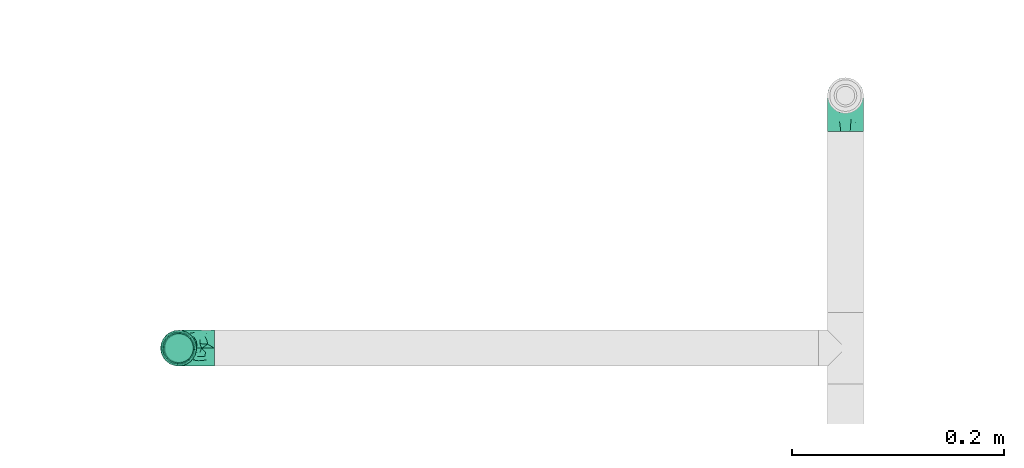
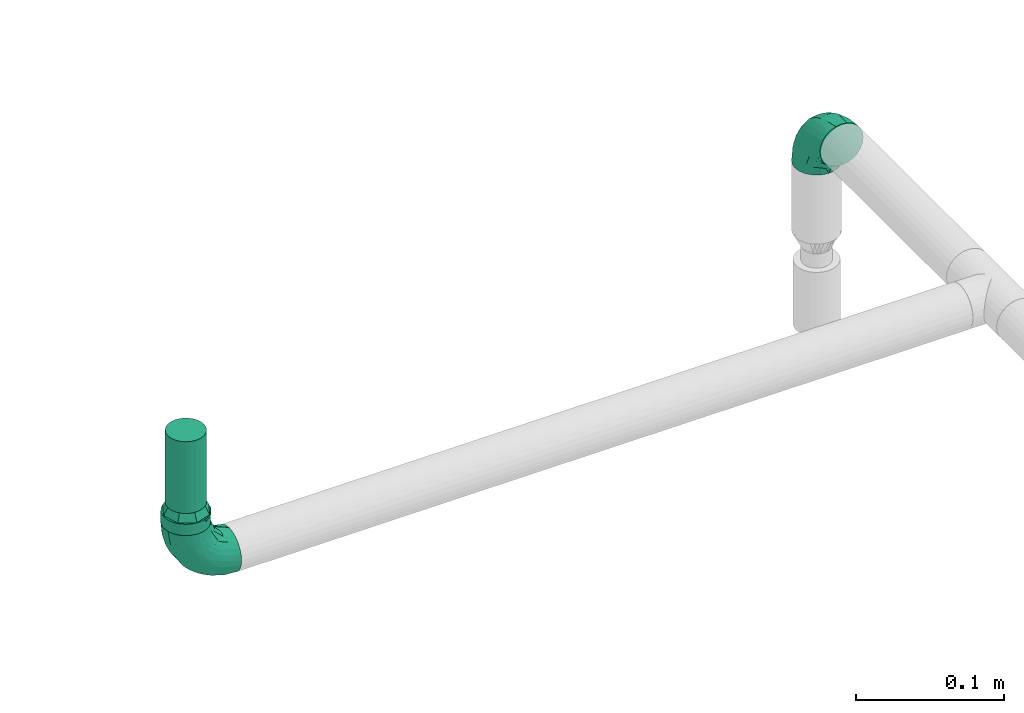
# One storey, part 35 of 43: 3 flow fittings, 1 flow segment, 1 flow terminal.
"""IFC2X3 building model written with IfcOpenShell, lengths in millimetres."""

from ifc_helpers import new_model, entity, si_unit, converted_unit, derived_unit, direction, frame, origin_with_axes, origin_2d_with_axis, place, context, subcontext, project, spatial, hollow_circle, extrude, open_shell, surface_model, source, transform, mapped, type_object, element, save


model = new_model("IFC2X3")

# Units and contexts
model_context = context("Model", 3, precision=0.01, world=frame((0.0, 4.29681676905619e-09, 0.0)), true_north=direction((4.01073788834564e-13, 1.0)))
plan_context = context("Plan", 3, precision=0.01, world=frame((0.0, 4.29681676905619e-09, 0.0)), true_north=direction((4.01073788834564e-13, 1.0)))
body_context = subcontext(model_context, "Body", "Model", "MODEL_VIEW")
ifc_project = project(units=[converted_unit("PLANEANGLEUNIT", "DEGREE", entity("IfcPositiveLengthMeasure", 0.0174532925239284), si_unit("PLANEANGLEUNIT", "RADIAN"), dimensions=[0, 0, 0, 0, 0, 0, 0]), si_unit("AREAUNIT", "SQUARE_METRE"), si_unit("LENGTHUNIT", "METRE", prefix="MILLI"), si_unit("MASSUNIT", "GRAM", prefix="KILO"), si_unit("POWERUNIT", "WATT"), si_unit("PRESSUREUNIT", "PASCAL"), si_unit("FORCEUNIT", "NEWTON", prefix="KILO"), si_unit("ELECTRICVOLTAGEUNIT", "VOLT"), si_unit("ELECTRICCURRENTUNIT", "AMPERE"), si_unit("THERMODYNAMICTEMPERATUREUNIT", "DEGREE_CELSIUS"), si_unit("TIMEUNIT", "SECOND"), si_unit("VOLUMEUNIT", "CUBIC_METRE"), derived_unit("LINEARVELOCITYUNIT", [(si_unit("LENGTHUNIT", "METRE"), 1), (si_unit("TIMEUNIT", "SECOND"), -1)]), derived_unit("VOLUMETRICFLOWRATEUNIT", [(si_unit("VOLUMEUNIT", "CUBIC_METRE"), 1), (si_unit("TIMEUNIT", "SECOND"), -1)]), derived_unit("THERMALTRANSMITTANCEUNIT", [(si_unit("POWERUNIT", "WATT"), 1), (si_unit("THERMODYNAMICTEMPERATUREUNIT", "KELVIN"), -1), (si_unit("AREAUNIT", "SQUARE_METRE"), -1)]), derived_unit("SOUNDPRESSUREUNIT", [(si_unit("PRESSUREUNIT", "PASCAL"), 1)])], contexts=[model_context, plan_context])

# Site, building, storey
site_placement = place(None, frame((0.0, -4.29681676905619e-09, 0.0), z_axis=(0.0, 0.0, 1.0), x_axis=(1.0, 0.0, 0.0)))
site = spatial("IfcSite", under=ifc_project, at=site_placement, CompositionType="ELEMENT")
building_placement = place(site_placement, frame((0.0, 4.29681676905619e-09, 0.0), z_axis=(0.0, 0.0, 1.0), x_axis=(1.0, 0.0, 0.0)))
building = spatial("IfcBuilding", under=site, at=building_placement, Name="mc-building", CompositionType="ELEMENT")
storey_placement = place(building_placement, frame((0.0, 0.0, 210900.0), z_axis=(0.0, 0.0, 1.0), x_axis=(1.0, 0.0, 0.0)))
storey = spatial("IfcBuildingStorey", under=building, at=storey_placement, Name="Nivå F", CompositionType="ELEMENT", Elevation=210900.0)

# Flow fittings
pipe_fitting_type_1 = type_object("IfcPipeFittingType", Name="magi_pipe_fe_elbow_short_001", PredefinedType="BEND")
shared_shape_1 = source(origin_with_axes(), body_context, "Body", "SurfaceModel", [
    surface_model("IfcShellBasedSurfaceModel", [(-33.8, 4.37404, -16.32415), (-33.8, 0.0, -16.9), (-33.8, 11.9501, -11.9501), (-33.8, 8.45, -14.63583), (-33.8, 16.32415, -4.37404), (-33.8, 14.63583, -8.45), (-33.8, -14.63583, -8.45), (-33.8, -16.32415, -4.37404), (-33.8, -8.45, 14.63583), (-33.8, -11.9501, -11.9501), (-33.8, -8.45, -14.63583), (-33.8, -4.37404, -16.32415), (-33.8, -16.9, 0.0), (-33.8, -16.32415, 4.37404), (-33.8, 11.9501, 11.9501), (-33.8, 14.63583, 8.45), (-33.8, 16.32415, 4.37404), (-33.8, 4.37404, 16.32415), (-33.8, 8.45, 14.63583), (-33.8, -14.63583, 8.45), (-33.8, -11.9501, 11.9501), (-33.8, -4.37404, 16.32415), (-33.8, 0.0, 16.9), (-33.8, 16.9, 0.0), (-11.9501, 33.8, -11.9501), (0.0, 33.8, -16.9), (-4.37404, 33.8, -16.32415), (-8.45, 33.8, -14.63583), (-14.63583, 33.8, -8.45), (-16.32415, 33.8, -4.37404), (14.63583, 33.8, -8.45), (8.45, 33.8, 14.63583), (16.32415, 33.8, -4.37404), (8.45, 33.8, -14.63583), (11.9501, 33.8, -11.9501), (4.37404, 33.8, -16.32415), (16.32415, 33.8, 4.37404), (16.9, 33.8, 0.0), (-11.9501, 33.8, 11.9501), (-16.32415, 33.8, 4.37404), (-14.63583, 33.8, 8.45), (-8.45, 33.8, 14.63583), (-4.37404, 33.8, 16.32415), (11.9501, 33.8, 11.9501), (14.63583, 33.8, 8.45), (0.0, 33.8, 16.9), (4.37404, 33.8, 16.32415), (-16.9, 33.8, 0.0), (-24.79389, -13.12945, 9.48721), (-22.19287, -9.75018, 12.59315), (-24.09897, -14.97035, 0.0), (-14.93934, -10.76256, 8.5297), (-22.46095, -14.75051, 5.27077), (14.75051, 22.46094, 5.27077), (11.9251, 13.23888, 4.33236), (13.04069, 14.39795, 0.0), (7.71387, 13.68847, 11.55891), (9.75018, 22.19287, 12.59315), (4.10169, 13.0571, 14.04018), (-24.84007, -6.39063, 15.2048), (-25.81779, -2.23879, 16.61097), (-23.66549, 2.59054, 16.87119), (-26.50418, 14.06512, 11.08152), (-24.21253, 17.66365, 7.72657), (-29.58514, 15.86957, 7.00283), (-6.17382, -7.5455, 0.0), (-13.23888, -11.9251, 4.33236), (-14.39795, -13.04069, 0.0), (-17.81434, 18.87373, 11.97104), (-6.30846, 29.15138, 15.82987), (-2.31622, 25.28002, 16.85849), (-29.23923, 10.23435, 13.77053), (-1.45439, -2.85688, 7.61475), (-0.28326, 0.34872, 10.09509), (-5.74484, -4.04709, 10.4122), (-4.41137, 11.31918, 16.59407), (-8.39727, 3.10034, 15.7812), (-1.72649, 9.1306, 15.53089), (-17.39909, 24.75344, 7.64977), (-26.19233, 20.0512, 0.0), (-28.14518, 17.29657, 4.25857), (-26.05147, 6.6281, 15.96447), (-5.87354, 16.61944, 16.86968), (-12.51807, 12.51807, 16.48937), (-10.06312, 7.38516, 16.81295), (-3.01882, 3.01882, 13.81718), (-13.0571, -4.10169, 14.04018), (-16.82553, -0.15166, 16.38038), (10.76256, 14.93934, 8.5297), (13.12945, 24.79389, 9.48721), (6.39063, 24.84007, 15.2048), (2.23879, 25.81779, 16.61097), (-13.68847, -7.71387, 11.55891), (14.97035, 24.09897, 0.0), (-7.30894, 22.89991, 16.09489), (-10.67958, 26.17414, 14.008), (-12.78295, 18.26924, 15.06066), (-13.88562, 22.45231, 12.93244), (-18.04944, 15.16501, 14.04434), (-23.11658, 20.08178, 4.02986), (-21.84989, 21.84989, 0.0), (-18.55817, 25.48277, 3.93065), (-13.95142, 26.94732, 11.03289), (-18.57098, 7.23906, 16.59756), (-16.58335, 4.14122, 16.89279), (-17.96666, 11.46709, 15.63151), (-9.84453, 17.54304, 16.18938), (0.15166, 16.82553, 16.38038), (-23.27207, 11.47201, 14.23154), (3.84842, 5.86994, 10.70473), (-8.0212, -7.54413, 7.93275), (1.00345, -2.19508, 4.57414), (5.13203, 3.01004, 5.90201), (5.24161, 1.7543, 2.53265), (8.70457, 7.04947, 3.99182), (-20.0512, 26.19233, 0.0), (8.4852, 8.76699, 7.09296), (-4.55488, -6.72064, 4.90681), (2.05031, -2.05031, 0.0), (7.5455, 6.17382, 0.0), (-26.75399, 2.1369, -16.845), (-14.61995, 24.73803, -11.27736), (-28.45274, -13.45335, -9.81895), (-26.00469, 6.63555, -15.96645), (-23.06726, 20.04573, -4.26202), (-13.80647, -4.26506, -14.17873), (-14.67501, -0.21081, -16.07388), (-6.7902, -0.2828, -13.8478), (-24.53586, 11.08096, -14.13417), (-26.72048, 14.00837, -11.05776), (10.0967, 24.44989, -12.75976), (5.83237, 21.40218, -15.03047), (6.66249, 28.54238, -15.38093), (-20.38182, 15.48705, -12.74596), (-15.65186, 19.64213, -13.01327), (-12.03528, 20.66498, -14.67665), (-15.61907, 15.61906, -14.83879), (-25.56551, -15.26206, 0.0), (-24.65452, -15.12934, -5.50955), (12.53268, 21.23441, -9.15363), (13.45335, 28.45274, -9.81895), (15.12934, 24.65452, -5.50955), (-7.35442, -8.31014, -5.65563), (-15.67504, -12.54494, -5.54878), (-24.44989, -10.0967, -12.75976), (0.16522, 0.41303, -9.71728), (-5.70658, -5.33066, -8.89288), (-5.13869, -2.37198, -11.53565), (-21.23441, -12.53268, -9.15363), (0.71146, 7.93863, -14.09382), (0.21081, 14.67501, -16.07388), (3.49291, 14.42772, -14.76381), (-24.89911, -2.13088, -16.591), (-28.54238, -6.66249, -15.38093), (-18.44386, -7.71663, -13.26957), (2.13088, 24.89911, -16.591), (-28.64342, 17.44413, -2.89318), (1.70017, -1.28722, -5.09504), (-16.57067, 26.81947, -7.36596), (-17.69055, 27.4263, -3.76405), (-12.89279, -9.7522, -8.66343), (-5.96611, 5.96611, -15.95814), (-20.53709, 20.09345, -8.28985), (-2.1369, 26.75399, -16.845), (-6.89872, 24.58781, -16.02578), (-10.60739, 26.53157, -13.98044), (-21.40218, -5.83237, -15.03047), (2.93192, 5.89627, -11.55917), (6.89393, 12.61842, -11.82233), (5.58056, 5.95325, -8.79455), (-3.99512, 18.61798, -16.89635), (-9.1383, 9.86148, -16.89041), (-9.99983, 16.02119, -16.39699), (-16.68576, 9.78031, -16.34199), (-27.01915, 16.61158, -7.12979), (15.26206, 25.56551, 0.0), (-18.61798, 3.99512, -16.89635), (-19.37495, 27.82495, 0.0), (9.7522, 12.89279, -8.66343), (-12.61842, -6.89393, -11.82233), (8.31014, 7.35442, -5.65563), (-18.84705, 19.14018, -10.96545), (12.54494, 15.67504, -5.54878)], [open_shell([[[0, 1, 2]], [[3, 0, 2]], [[4, 5, 2]], [[6, 2, 1]], [[2, 7, 8]], [[9, 6, 10]], [[1, 11, 10]], [[10, 6, 1]], [[2, 6, 7]], [[12, 13, 7]], [[4, 2, 14]], [[4, 15, 16]], [[4, 14, 15]], [[17, 18, 14]], [[14, 2, 8]], [[17, 14, 8]], [[19, 20, 13]], [[20, 7, 13]], [[21, 22, 8]], [[20, 8, 7]], [[8, 22, 17]], [[4, 16, 23]], [[24, 25, 26]], [[24, 26, 27]], [[24, 28, 29]], [[25, 24, 30]], [[31, 32, 24]], [[33, 30, 34]], [[33, 35, 25]], [[25, 30, 33]], [[32, 30, 24]], [[32, 36, 37]], [[38, 24, 29]], [[39, 40, 29]], [[40, 38, 29]], [[38, 41, 42]], [[38, 31, 24]], [[31, 38, 42]], [[36, 43, 44]], [[36, 32, 43]], [[31, 45, 46]], [[32, 31, 43]], [[42, 45, 31]], [[39, 29, 47]], [[20, 48, 49]], [[13, 12, 50]], [[51, 48, 52]], [[53, 54, 55]], [[48, 20, 19]], [[13, 52, 19]], [[56, 57, 58]], [[49, 8, 20]], [[49, 59, 8]], [[22, 60, 61]], [[62, 63, 64]], [[65, 66, 67]], [[57, 43, 31]], [[62, 68, 63]], [[42, 69, 70]], [[18, 71, 14]], [[21, 60, 22]], [[72, 73, 74]], [[75, 76, 77]], [[14, 62, 15]], [[40, 39, 78]], [[79, 23, 80]], [[64, 16, 15]], [[22, 61, 17]], [[17, 81, 18]], [[82, 83, 84]], [[74, 85, 86]], [[59, 86, 87]], [[88, 89, 57]], [[90, 31, 46]], [[44, 53, 36]], [[46, 45, 91]], [[54, 53, 88]], [[44, 89, 53]], [[92, 86, 49]], [[89, 44, 43]], [[8, 59, 21]], [[53, 55, 93]], [[93, 36, 53]], [[66, 52, 67]], [[94, 82, 70]], [[95, 96, 94]], [[97, 98, 96]], [[79, 99, 100]], [[41, 38, 95]], [[101, 100, 99]], [[68, 78, 63]], [[42, 41, 69]], [[23, 16, 80]], [[95, 94, 69]], [[78, 101, 99]], [[38, 102, 95]], [[70, 45, 42]], [[97, 95, 102]], [[13, 50, 52]], [[90, 57, 31]], [[57, 90, 58]], [[81, 17, 61]], [[103, 104, 84]], [[105, 81, 103]], [[38, 40, 102]], [[106, 96, 83]], [[94, 106, 82]], [[91, 70, 107]], [[71, 62, 14]], [[62, 108, 98]], [[86, 59, 49]], [[67, 52, 50]], [[60, 59, 87]], [[92, 49, 51]], [[86, 85, 76]], [[91, 90, 46]], [[37, 36, 93]], [[107, 77, 58]], [[107, 58, 90]], [[58, 85, 109]], [[110, 74, 92]], [[72, 74, 110]], [[66, 51, 52]], [[72, 111, 112]], [[113, 114, 112]], [[56, 88, 57]], [[52, 48, 19]], [[49, 48, 51]], [[57, 89, 43]], [[53, 89, 88]], [[103, 81, 61]], [[71, 81, 108]], [[16, 64, 80]], [[63, 78, 99]], [[47, 115, 101]], [[101, 115, 100]], [[40, 78, 102]], [[68, 102, 78]], [[97, 96, 95]], [[105, 98, 108]], [[103, 84, 83]], [[107, 70, 82]], [[76, 84, 87]], [[82, 84, 75]], [[70, 91, 45]], [[90, 91, 107]], [[59, 60, 21]], [[61, 60, 87]], [[73, 85, 74]], [[109, 112, 116]], [[103, 61, 104]], [[105, 103, 83]], [[96, 105, 83]], [[81, 105, 108]], [[96, 98, 105]], [[62, 98, 68]], [[61, 87, 104]], [[87, 84, 104]], [[86, 76, 87]], [[77, 76, 85]], [[58, 77, 85]], [[75, 77, 107]], [[82, 75, 107]], [[76, 75, 84]], [[81, 71, 18]], [[62, 71, 108]], [[95, 69, 41]], [[70, 69, 94]], [[62, 64, 15]], [[80, 63, 99]], [[63, 80, 64]], [[80, 99, 79]], [[66, 65, 117]], [[110, 66, 117]], [[112, 114, 116]], [[118, 117, 65]], [[110, 92, 51]], [[112, 111, 113]], [[119, 55, 54]], [[74, 86, 92]], [[58, 109, 56]], [[116, 56, 109]], [[66, 110, 51]], [[72, 110, 117]], [[111, 72, 117]], [[73, 112, 109]], [[117, 118, 111]], [[113, 111, 118]], [[118, 119, 113]], [[114, 119, 54]], [[119, 114, 113]], [[116, 54, 88]], [[54, 116, 114]], [[116, 88, 56]], [[112, 73, 72]], [[85, 73, 109]], [[78, 39, 101]], [[47, 101, 39]], [[102, 68, 97]], [[97, 68, 98]], [[82, 106, 83]], [[94, 96, 106]], [[0, 120, 1]], [[28, 24, 121]], [[9, 122, 6]], [[3, 123, 0]], [[100, 124, 79]], [[125, 126, 127]], [[128, 2, 129]], [[130, 131, 132]], [[128, 129, 133]], [[134, 135, 136]], [[128, 3, 2]], [[67, 137, 138]], [[139, 140, 141]], [[138, 7, 6]], [[142, 65, 143]], [[144, 9, 10]], [[145, 146, 147]], [[143, 138, 148]], [[149, 150, 151]], [[152, 11, 1]], [[10, 153, 144]], [[148, 144, 154]], [[153, 10, 11]], [[35, 155, 25]], [[23, 79, 156]], [[146, 157, 142]], [[158, 159, 29]], [[143, 160, 142]], [[161, 150, 149]], [[29, 28, 158]], [[121, 162, 158]], [[33, 34, 130]], [[25, 163, 26]], [[26, 163, 164]], [[140, 34, 30]], [[24, 27, 165]], [[124, 159, 162]], [[155, 35, 132]], [[153, 152, 166]], [[123, 3, 128]], [[167, 168, 169]], [[170, 155, 150]], [[26, 164, 27]], [[132, 35, 33]], [[140, 130, 34]], [[166, 152, 126]], [[133, 134, 136]], [[2, 5, 129]], [[168, 131, 130]], [[30, 32, 141]], [[170, 171, 172]], [[173, 123, 128]], [[156, 174, 4]], [[165, 27, 164]], [[172, 164, 170]], [[134, 165, 135]], [[122, 138, 6]], [[137, 12, 7]], [[32, 37, 175]], [[168, 130, 139]], [[150, 155, 131]], [[163, 155, 170]], [[151, 168, 149]], [[150, 161, 171]], [[166, 125, 154]], [[122, 144, 148]], [[120, 152, 1]], [[176, 171, 126]], [[176, 126, 152]], [[126, 161, 127]], [[160, 143, 148]], [[137, 7, 138]], [[32, 175, 141]], [[55, 141, 175]], [[174, 129, 5]], [[128, 133, 136]], [[173, 128, 136]], [[120, 123, 176]], [[121, 158, 28]], [[159, 100, 177]], [[164, 172, 135]], [[121, 24, 165]], [[159, 47, 29]], [[79, 124, 156]], [[124, 162, 174]], [[159, 124, 100]], [[178, 169, 168]], [[127, 161, 149]], [[145, 169, 157]], [[146, 142, 160]], [[127, 149, 167]], [[127, 179, 125]], [[129, 174, 162]], [[5, 4, 174]], [[157, 65, 142]], [[67, 138, 143]], [[123, 120, 0]], [[152, 120, 176]], [[155, 163, 25]], [[164, 163, 170]], [[170, 150, 171]], [[173, 136, 172]], [[126, 171, 161]], [[173, 171, 176]], [[171, 173, 172]], [[123, 173, 176]], [[148, 179, 160]], [[127, 147, 179]], [[179, 146, 160]], [[157, 146, 145]], [[169, 178, 180]], [[168, 139, 178]], [[157, 169, 180]], [[169, 145, 167]], [[167, 145, 147]], [[149, 168, 167]], [[162, 181, 129]], [[181, 121, 134]], [[179, 147, 146]], [[167, 147, 127]], [[181, 134, 133]], [[165, 134, 121]], [[164, 135, 165]], [[172, 136, 135]], [[129, 181, 133]], [[121, 181, 162]], [[159, 158, 162]], [[47, 159, 177]], [[174, 156, 124]], [[23, 156, 4]], [[130, 132, 33]], [[155, 132, 131]], [[141, 140, 30]], [[130, 140, 139]], [[152, 153, 11]], [[144, 153, 166]], [[144, 122, 9]], [[138, 122, 148]], [[150, 131, 151]], [[157, 119, 118]], [[67, 143, 65]], [[168, 151, 131]], [[119, 157, 180]], [[157, 118, 65]], [[154, 125, 179]], [[126, 125, 166]], [[148, 154, 179]], [[166, 154, 144]], [[139, 182, 178]], [[141, 182, 139]], [[178, 182, 180]], [[182, 55, 119]], [[141, 55, 182]], [[182, 119, 180]]])]),
])
for number, where, z_axis, x_axis, name in (
    (1, (606986.48955, 698431.17925, 2660.0), (1.0, 0.0, 0.0), (0.0, 0.0, 1.0), "magi_pipe_fe_elbow_short_001"),
    (2, (606358.42187, 698193.36932, 2660.0), (0.0, -1.0, 0.0), (0.0, 0.0, -1.0), "magi_pipe_fe_elbow_short_001"),
):
    element("IfcFlowFitting", number, at=place(storey_placement, frame(where, z_axis=z_axis, x_axis=x_axis)), inside=storey, type_object=pipe_fitting_type_1, Name=name, context=body_context, shape_type="MappedRepresentation", body=[
        mapped(shared_shape_1, transform((0.0, 0.0, 0.0), scale=1.0)),
    ])
pipe_fitting_type_2 = type_object("IfcPipeFittingType", Name="magi_pipe_fe_reducer_centric_short_NOR", PredefinedType="TRANSITION")
shared_shape_2 = source(origin_with_axes(), body_context, "Body", "SurfaceModel", [
    surface_model("IfcShellBasedSurfaceModel", [(-2.0, 11.9501, 11.9501), (-2.0, 0.0, 16.9), (-2.0, 4.37404, 16.32415), (-2.0, 8.45, 14.63583), (-2.0, 14.63583, 8.45), (-2.0, 16.32415, 4.37404), (-2.0, -16.32415, 4.37404), (-2.0, -8.45, 14.63583), (-2.0, -14.63583, 8.45), (-2.0, -11.9501, 11.9501), (-2.0, -4.37404, 16.32415), (-2.0, -16.32415, -4.37404), (-2.0, -16.9, 0.0), (-2.0, -8.45, -14.63583), (-2.0, 16.32415, -4.37404), (-2.0, 11.9501, -11.9501), (-2.0, 14.63583, -8.45), (-2.0, 8.45, -14.63583), (-2.0, 4.37404, -16.32415), (-2.0, 0.0, -16.9), (-2.0, -11.9501, -11.9501), (-2.0, -14.63583, -8.45), (-2.0, -4.37404, -16.32415), (-2.0, 16.9, 0.0), (0.0, 4.37404, -16.32415), (0.0, 8.45, -14.63583), (0.0, 11.9501, -11.9501), (0.0, 0.0, -16.9), (0.0, 16.32415, -4.37404), (0.0, 16.32415, 4.37404), (0.0, 14.63583, -8.45), (0.0, -8.45, -14.63583), (0.0, -4.37404, -16.32415), (0.0, -11.9501, -11.9501), (0.0, -16.32415, -4.37404), (0.0, -14.63583, -8.45), (0.0, -16.32415, 4.37404), (0.0, 16.9, 0.0), (0.0, 14.63583, 8.45), (0.0, 11.9501, 11.9501), (0.0, 4.37404, 16.32415), (0.0, 8.45, 14.63583), (0.0, 0.0, 16.9), (0.0, -14.63583, 8.45), (0.0, -16.9, 0.0), (0.0, -8.45, 14.63583), (0.0, -11.9501, 11.9501), (0.0, -4.37404, 16.32415), (9.0, 12.94341, -3.46818), (9.0, 3.46818, -12.94341), (9.0, 6.7, -11.60474), (9.0, 9.47523, -9.47523), (9.0, -6.7, -11.60474), (9.0, -12.94341, 3.46818), (9.0, 11.60474, -6.7), (9.0, 0.0, -13.4), (9.0, -3.46818, -12.94341), (9.0, -9.47523, -9.47523), (9.0, -12.94341, -3.46818), (9.0, -11.60474, -6.7), (9.0, 13.4, 0.0), (9.0, 12.94341, 3.46818), (9.0, 11.60474, 6.7), (9.0, 9.47523, 9.47523), (9.0, 0.0, 13.4), (9.0, 6.7, 11.60474), (9.0, 3.46818, 12.94341), (9.0, -6.7, 11.60474), (9.0, -9.47523, 9.47523), (9.0, -11.60474, 6.7), (9.0, -13.4, 0.0), (9.0, -3.46818, 12.94341), (7.0, 0.0, 13.4), (7.0, 3.46818, 12.94341), (7.0, 6.7, 11.60474), (7.0, -3.46818, 12.94341), (7.0, 9.47523, 9.47523), (7.0, 11.60474, 6.7), (7.0, 12.94341, 3.46818), (7.0, -12.94341, 3.46818), (7.0, -9.47523, 9.47523), (7.0, -6.7, 11.60474), (7.0, -11.60474, 6.7), (7.0, -12.94341, -3.46818), (7.0, -13.4, 0.0), (7.0, -6.7, -11.60474), (7.0, 12.94341, -3.46818), (7.0, 9.47523, -9.47523), (7.0, 11.60474, -6.7), (7.0, 6.7, -11.60474), (7.0, 3.46818, -12.94341), (7.0, -9.47523, -9.47523), (7.0, -11.60474, -6.7), (7.0, 0.0, -13.4), (7.0, -3.46818, -12.94341), (7.0, 13.4, 0.0), (0.0, 13.18758, -8.96258), (0.0, 14.42505, -5.97505), (7.0, 10.491, -7.02294), (7.0, 11.50677, -4.57065), (0.0, 15.66253, -2.98753), (7.0, 12.45339, -2.28533), (0.0, 2.98753, -15.66253), (0.0, 5.97505, -14.42505), (0.0, 8.96258, -13.18758), (7.0, 4.73762, -11.43761), (7.0, 7.10642, -10.45642), (7.0, 2.36881, -12.41881), (0.0, -14.42505, -5.97505), (7.0, -11.43761, -4.73762), (7.0, -12.41881, -2.36881), (7.0, -2.36881, -12.41881), (7.0, -10.45642, -7.10642), (0.0, -15.70614, -2.88224), (0.0, -13.18758, -8.96258), (7.0, -4.73762, -11.43761), (7.0, -7.10642, -10.45642), (0.0, -5.97505, -14.42505), (0.0, -2.98753, -15.66253), (0.0, -8.96258, -13.18758), (0.0, -13.18758, 8.96258), (0.0, -14.42505, 5.97505), (7.0, -10.491, 7.02294), (7.0, -11.50677, 4.57065), (0.0, -15.66253, 2.98753), (7.0, -12.45339, 2.28533), (0.0, -2.98753, 15.66253), (0.0, -5.97505, 14.42505), (0.0, -8.96258, 13.18758), (7.0, -4.73762, 11.43761), (7.0, -7.10642, 10.45642), (7.0, -2.36881, 12.41881), (0.0, 14.42505, 5.97505), (7.0, 11.43761, 4.73762), (7.0, 12.41881, 2.36881), (7.0, 2.36881, 12.41881), (7.0, 10.45642, 7.10642), (0.0, 15.70614, 2.88224), (0.0, 13.18758, 8.96258), (7.0, 4.73762, 11.43761), (7.0, 7.10642, 10.45642), (0.0, 5.97505, 14.42505), (0.0, 2.98753, 15.66253), (0.0, 8.96258, 13.18758)], [open_shell([[[0, 1, 2]], [[0, 2, 3]], [[0, 4, 5]], [[0, 5, 1]], [[1, 5, 6]], [[7, 8, 9]], [[7, 10, 1]], [[8, 7, 1]], [[1, 6, 8]], [[6, 11, 12]], [[6, 5, 13]], [[5, 14, 15]], [[15, 14, 16]], [[15, 17, 18]], [[13, 5, 15]], [[19, 15, 18]], [[11, 20, 21]], [[20, 11, 13]], [[13, 19, 22]], [[11, 6, 13]], [[15, 19, 13]], [[5, 23, 14]], [[24, 25, 26]], [[27, 24, 26]], [[26, 28, 29]], [[28, 26, 30]], [[26, 29, 31]], [[27, 31, 32]], [[27, 26, 31]], [[33, 34, 35]], [[34, 33, 31]], [[31, 36, 34]], [[29, 28, 37]], [[29, 38, 39]], [[29, 39, 40]], [[40, 36, 31]], [[40, 39, 41]], [[36, 40, 42]], [[42, 43, 36]], [[44, 34, 36]], [[43, 45, 46]], [[43, 42, 45]], [[45, 42, 47]], [[31, 29, 40]], [[11, 34, 12]], [[21, 35, 11]], [[31, 20, 13]], [[21, 20, 33]], [[32, 13, 22]], [[11, 35, 34]], [[34, 44, 12]], [[32, 31, 13]], [[33, 20, 31]], [[33, 35, 21]], [[27, 32, 22]], [[22, 19, 27]], [[18, 24, 19]], [[17, 25, 18]], [[30, 15, 16]], [[17, 15, 26]], [[28, 16, 14]], [[17, 26, 25]], [[25, 24, 18]], [[37, 28, 14]], [[30, 16, 28]], [[30, 26, 15]], [[23, 37, 14]], [[19, 24, 27]], [[5, 29, 23]], [[4, 38, 5]], [[41, 0, 3]], [[4, 0, 39]], [[40, 3, 2]], [[5, 38, 29]], [[29, 37, 23]], [[40, 41, 3]], [[39, 0, 41]], [[39, 38, 4]], [[42, 40, 2]], [[2, 1, 42]], [[10, 47, 1]], [[7, 45, 10]], [[43, 9, 8]], [[7, 9, 46]], [[36, 8, 6]], [[7, 46, 45]], [[45, 47, 10]], [[44, 36, 6]], [[43, 8, 36]], [[43, 46, 9]], [[12, 44, 6]], [[1, 47, 42]], [[33, 44, 27]], [[42, 39, 46]], [[39, 27, 44]], [[44, 46, 39]], [[48, 49, 50]], [[48, 50, 51]], [[52, 49, 53]], [[48, 51, 54]], [[49, 48, 53]], [[55, 52, 56]], [[55, 49, 52]], [[57, 58, 59]], [[53, 58, 57]], [[57, 52, 53]], [[48, 60, 53]], [[61, 62, 63]], [[61, 63, 64]], [[65, 66, 64]], [[65, 64, 63]], [[61, 64, 67]], [[53, 68, 69]], [[70, 58, 53]], [[53, 67, 68]], [[53, 61, 67]], [[71, 67, 64]], [[53, 60, 61]], [[72, 73, 74]], [[75, 72, 74]], [[76, 77, 78]], [[74, 76, 75]], [[78, 79, 76]], [[75, 80, 81]], [[80, 75, 79]], [[80, 79, 82]], [[75, 76, 79]], [[79, 83, 84]], [[79, 78, 85]], [[86, 87, 78]], [[87, 86, 88]], [[89, 85, 78]], [[78, 87, 89]], [[85, 89, 90]], [[83, 91, 92]], [[83, 79, 91]], [[85, 93, 94]], [[79, 85, 91]], [[90, 93, 85]], [[95, 86, 78]], [[83, 58, 84]], [[92, 59, 83]], [[52, 91, 85]], [[92, 91, 57]], [[56, 85, 94]], [[83, 59, 58]], [[58, 70, 84]], [[56, 52, 85]], [[57, 91, 52]], [[57, 59, 92]], [[55, 56, 94]], [[94, 93, 55]], [[90, 49, 93]], [[89, 50, 90]], [[54, 87, 88]], [[89, 87, 51]], [[48, 88, 86]], [[89, 51, 50]], [[50, 49, 90]], [[60, 48, 86]], [[54, 88, 48]], [[54, 51, 87]], [[95, 60, 86]], [[93, 49, 55]], [[78, 61, 95]], [[77, 62, 78]], [[65, 76, 74]], [[77, 76, 63]], [[66, 74, 73]], [[78, 62, 61]], [[61, 60, 95]], [[66, 65, 74]], [[63, 76, 65]], [[63, 62, 77]], [[64, 66, 73]], [[73, 72, 64]], [[75, 71, 72]], [[81, 67, 75]], [[69, 80, 82]], [[81, 80, 68]], [[53, 82, 79]], [[81, 68, 67]], [[67, 71, 75]], [[70, 53, 79]], [[69, 82, 53]], [[69, 68, 80]], [[84, 70, 79]], [[72, 71, 64]], [[72, 80, 95]], [[95, 76, 72]], [[80, 91, 95]], [[91, 93, 95]], [[87, 95, 93]], [[80, 84, 91]], [[26, 27, 39]], [[39, 37, 26]], [[96, 97, 98]], [[99, 100, 101]], [[37, 95, 101]], [[93, 27, 102]], [[103, 104, 105]], [[104, 26, 106]], [[87, 26, 96]], [[103, 107, 102]], [[108, 109, 110]], [[37, 101, 100]], [[27, 93, 111]], [[112, 33, 91]], [[110, 84, 113]], [[109, 114, 112]], [[33, 112, 114]], [[115, 116, 117]], [[115, 118, 111]], [[93, 102, 107]], [[116, 91, 119]], [[27, 111, 118]], [[97, 99, 98]], [[87, 96, 98]], [[100, 99, 97]], [[26, 87, 106]], [[105, 104, 106]], [[107, 103, 105]], [[84, 44, 113]], [[108, 110, 113]], [[114, 109, 108]], [[91, 33, 119]], [[117, 116, 119]], [[118, 115, 117]], [[120, 121, 122]], [[123, 124, 125]], [[44, 84, 125]], [[72, 42, 126]], [[127, 128, 129]], [[128, 46, 130]], [[80, 46, 120]], [[127, 131, 126]], [[132, 133, 134]], [[44, 125, 124]], [[42, 72, 135]], [[136, 39, 76]], [[134, 95, 137]], [[133, 138, 136]], [[39, 136, 138]], [[139, 140, 141]], [[139, 142, 135]], [[72, 126, 131]], [[140, 76, 143]], [[42, 135, 142]], [[121, 123, 122]], [[80, 120, 122]], [[124, 123, 121]], [[46, 80, 130]], [[129, 128, 130]], [[131, 127, 129]], [[95, 37, 137]], [[132, 134, 137]], [[138, 133, 132]], [[76, 39, 143]], [[141, 140, 143]], [[142, 139, 141]]])]),
])
flow_fitting_placement = place(storey_placement, frame((606358.7737, 698193.34149, 2702.93346), z_axis=(-0.996846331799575, 0.0788420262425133, 0.00901807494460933), x_axis=(0.00899000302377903, -0.00071100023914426, 0.999959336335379)))
element("IfcFlowFitting", 3, at=flow_fitting_placement, inside=storey, type_object=pipe_fitting_type_2, Name="magi_pipe_fe_reducer_centric_short_NOR", context=body_context, shape_type="MappedRepresentation", body=[
    mapped(shared_shape_2, transform((0.0, 0.0, 0.0), scale=1.0)),
])

# Flow segment
pipe_segment_type = type_object("IfcPipeSegmentType", Name="Stålrør normaltykke", PredefinedType="RIGIDSEGMENT")
shared_shape_3 = source(origin_with_axes(), body_context, "Body", "SweptSolid", [
    extrude(hollow_circle(Radius=16.9, WallThickness=2.0, at=origin_2d_with_axis()), frame((0.0, 0.0, 0.0), z_axis=(1.0, 0.0, 0.0), x_axis=(0.0, 1.0, 0.0)), (0.0, 0.0, 1.0), 9.2),
])
flow_segment_placement = place(storey_placement, frame((606358.42187, 698193.36932, 2693.79999999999), z_axis=(-0.999959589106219, -6.0000008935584e-06, 0.00899000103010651), x_axis=(0.00899000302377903, -0.00071100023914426, 0.999959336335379)))
element("IfcFlowSegment", 4, at=flow_segment_placement, inside=storey, type_object=pipe_segment_type, Name="Stålrør normaltykke", context=body_context, shape_type="MappedRepresentation", body=[
    mapped(shared_shape_3, transform((0.0, 0.0, 0.0), scale=1.0)),
])

# Flow terminal
fire_suppression_terminal_type = type_object("IfcFireSuppressionTerminalType", Name="SU-20-K115-68DGR-STD", PredefinedType="NOTDEFINED")
shared_shape_4 = source(origin_with_axes(), body_context, "Body", "SurfaceModel", [
    surface_model("IfcShellBasedSurfaceModel", [(3.62347, -13.52296, 59.0), (-3.62347, -13.52296, 59.0), (0.0, -14.0, 59.0), (12.12436, -7.0, 59.0), (7.0, -12.12436, 59.0), (-9.89949, -9.89949, 59.0), (13.52296, 3.62347, 59.0), (9.89949, -9.89949, 59.0), (-7.0, -12.12436, 59.0), (-12.12436, -7.0, 59.0), (-14.0, 0.0, 59.0), (-13.52296, -3.62347, 59.0), (-13.52296, 3.62347, 59.0), (13.52296, -3.62347, 59.0), (14.0, 0.0, 59.0), (9.89949, 9.89949, 59.0), (12.12436, 7.0, 59.0), (7.0, 12.12436, 59.0), (3.62347, 13.52296, 59.0), (-9.89949, 9.89949, 59.0), (-12.12436, 7.0, 59.0), (0.0, 14.0, 59.0), (-3.62347, 13.52296, 59.0), (-7.0, 12.12436, 59.0), (9.89949, 9.89949, 0.0), (0.0, 14.0, 0.0), (3.62347, 13.52296, 0.0), (7.0, 12.12436, 0.0), (12.12436, 7.0, 0.0), (13.52296, 3.62347, 0.0), (-9.89949, -9.89949, 0.0), (-3.62347, 13.52296, 0.0), (-9.89949, 9.89949, 0.0), (-7.0, 12.12436, 0.0), (-13.52296, 3.62347, 0.0), (-12.12436, 7.0, 0.0), (-14.0, 0.0, 0.0), (3.62347, -13.52296, 0.0), (14.0, 0.0, 0.0), (13.52296, -3.62347, 0.0), (12.12436, -7.0, 0.0), (7.0, -12.12436, 0.0), (9.89949, -9.89949, 0.0), (-12.12436, -7.0, 0.0), (-13.52296, -3.62347, 0.0), (-3.62347, -13.52296, 0.0), (-7.0, -12.12436, 0.0), (0.0, -14.0, 0.0)], [open_shell([[[0, 1, 2]], [[3, 0, 4]], [[5, 0, 6]], [[3, 4, 7]], [[6, 0, 3]], [[1, 5, 8]], [[1, 0, 5]], [[9, 10, 11]], [[10, 9, 5]], [[5, 12, 10]], [[3, 13, 14]], [[12, 5, 6]], [[15, 6, 16]], [[15, 17, 18]], [[15, 18, 6]], [[12, 6, 18]], [[12, 19, 20]], [[19, 12, 21]], [[19, 22, 23]], [[22, 19, 21]], [[12, 18, 21]], [[6, 3, 14]], [[24, 25, 26]], [[24, 26, 27]], [[24, 28, 29]], [[24, 29, 25]], [[30, 31, 25]], [[31, 32, 33]], [[32, 31, 34]], [[32, 34, 35]], [[36, 34, 30]], [[30, 34, 31]], [[25, 29, 37]], [[38, 39, 40]], [[37, 29, 40]], [[41, 37, 40]], [[41, 40, 42]], [[25, 37, 30]], [[36, 43, 44]], [[30, 43, 36]], [[30, 45, 46]], [[30, 37, 45]], [[47, 45, 37]], [[40, 29, 38]], [[11, 44, 43]], [[30, 9, 43]], [[8, 46, 45]], [[30, 46, 5]], [[1, 45, 47]], [[44, 10, 36]], [[44, 11, 10]], [[43, 9, 11]], [[30, 5, 9]], [[8, 5, 46]], [[45, 1, 8]], [[47, 2, 1]], [[0, 37, 41]], [[42, 4, 41]], [[3, 40, 39]], [[42, 40, 7]], [[13, 39, 38]], [[37, 0, 2]], [[41, 4, 0]], [[42, 7, 4]], [[40, 3, 7]], [[13, 3, 39]], [[38, 14, 13]], [[37, 2, 47]], [[6, 38, 29]], [[17, 27, 26]], [[27, 15, 24]], [[18, 26, 25]], [[29, 16, 6]], [[6, 14, 38]], [[28, 15, 16]], [[28, 24, 15]], [[15, 27, 17]], [[26, 18, 17]], [[28, 16, 29]], [[25, 21, 18]], [[22, 31, 33]], [[32, 23, 33]], [[20, 35, 34]], [[32, 35, 19]], [[12, 34, 36]], [[31, 22, 21]], [[33, 23, 22]], [[32, 19, 23]], [[35, 20, 19]], [[12, 20, 34]], [[36, 10, 12]], [[31, 21, 25]]])]),
])
flow_terminal_placement = place(storey_placement, frame((606358.56694, 698193.35785, 2709.93562), z_axis=(0.0, 0.0, 1.0), x_axis=(0.0, -1.0, 0.0)))
element("IfcFlowTerminal", 5, at=flow_terminal_placement, inside=storey, type_object=fire_suppression_terminal_type, Name="SU-20-K115-68DGR-STD", context=body_context, shape_type="MappedRepresentation", body=[
    mapped(shared_shape_4, transform((0.0, 0.0, 0.0), scale=1.0)),
])

save(model, "model.ifc")
